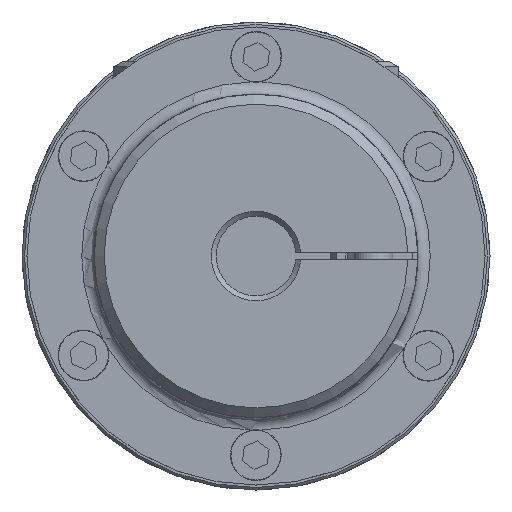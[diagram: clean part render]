
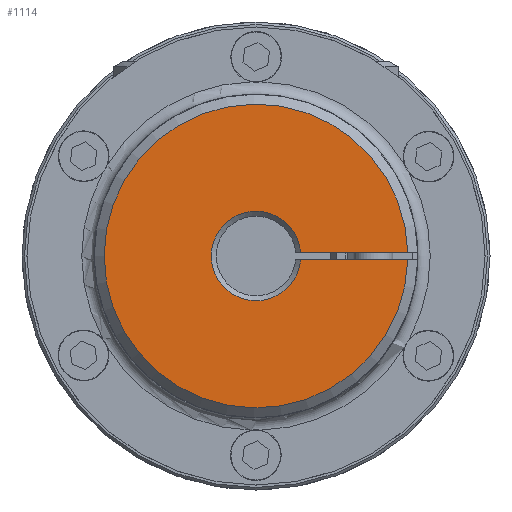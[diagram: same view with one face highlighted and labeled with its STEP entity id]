
A CAD part, left-side view. The second image highlights one B-rep face of the part: STEP entity #1114.
In plain terms, the highlighted planar face has unit normal (-1, 0, 0) as drawn and (0, 0, -1) by its records, which use the part's own axes.
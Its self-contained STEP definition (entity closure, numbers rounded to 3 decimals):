
#1114 = ADVANCED_FACE( '', ( #2228 ), #2229, .T. );
#2228 = FACE_OUTER_BOUND( '', #3306, .T. );
#2229 = PLANE( '', #3307 );
#3306 = EDGE_LOOP( '', ( #5974, #5975, #5976, #5977 ) );
#3307 = AXIS2_PLACEMENT_3D( '', #5978, #5979, #5980 );
#5974 = ORIENTED_EDGE( '', *, *, #7361, .F. );
#5975 = ORIENTED_EDGE( '', *, *, #7300, .T. );
#5976 = ORIENTED_EDGE( '', *, *, #7362, .T. );
#5977 = ORIENTED_EDGE( '', *, *, #7363, .T. );
#5978 = CARTESIAN_POINT( '', ( 0., 0., 0. ) );
#5979 = DIRECTION( '', ( 0., 0., -1. ) );
#5980 = DIRECTION( '', ( 0., -1., 0. ) );
#7300 = EDGE_CURVE( '', #8649, #8651, #8653, .T. );
#7361 = EDGE_CURVE( '', #8649, #8742, #8743, .T. );
#7362 = EDGE_CURVE( '', #8651, #8744, #8745, .F. );
#7363 = EDGE_CURVE( '', #8744, #8742, #8746, .F. );
#8649 = VERTEX_POINT( '', #10819 );
#8651 = VERTEX_POINT( '', #10824 );
#8653 = CIRCLE( '', #10829, 30.5 );
#8742 = VERTEX_POINT( '', #10986 );
#8743 = LINE( '', #10987, #10988 );
#8744 = VERTEX_POINT( '', #10989 );
#8745 = LINE( '', #10990, #10991 );
#8746 = CIRCLE( '', #10992, 9. );
#10819 = CARTESIAN_POINT( '', ( -30.491, 0.75, 0. ) );
#10824 = CARTESIAN_POINT( '', ( -30.491, -0.75, 0. ) );
#10829 = AXIS2_PLACEMENT_3D( '', #12451, #12452, #12453 );
#10986 = CARTESIAN_POINT( '', ( -8.969, 0.75, 0. ) );
#10987 = CARTESIAN_POINT( '', ( -32.5, 0.75, 0. ) );
#10988 = VECTOR( '', #12574, 1000. );
#10989 = CARTESIAN_POINT( '', ( -8.969, -0.75, 0. ) );
#10990 = CARTESIAN_POINT( '', ( 0., -0.75, 0. ) );
#10991 = VECTOR( '', #12575, 1000. );
#10992 = AXIS2_PLACEMENT_3D( '', #12576, #12577, #12578 );
#12451 = CARTESIAN_POINT( '', ( 0., 0., 0. ) );
#12452 = DIRECTION( '', ( 0., 0., -1. ) );
#12453 = DIRECTION( '', ( -1., 0., 0. ) );
#12574 = DIRECTION( '', ( 1., 0., 0. ) );
#12575 = DIRECTION( '', ( -1., 0., 0. ) );
#12576 = CARTESIAN_POINT( '', ( 0., 0., 0. ) );
#12577 = DIRECTION( '', ( 0., 0., -1. ) );
#12578 = DIRECTION( '', ( -1., 0., 0. ) );
